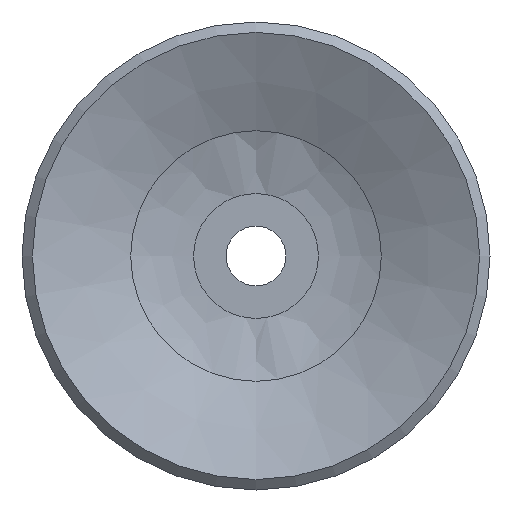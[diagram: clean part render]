
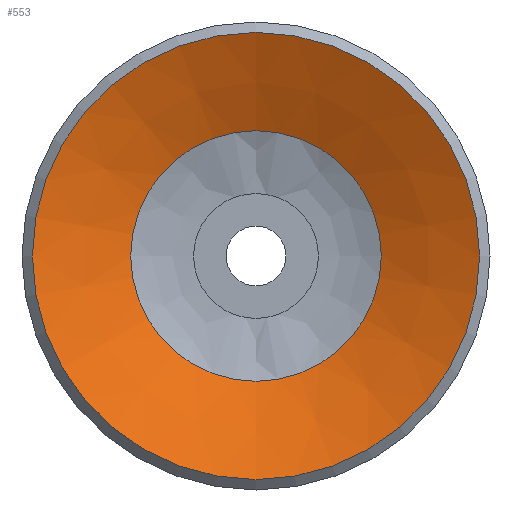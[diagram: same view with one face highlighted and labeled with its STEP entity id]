
A CAD part, front view. The second image highlights one B-rep face of the part: STEP entity #553.
In plain terms, the highlighted conical face has half-angle 65.056 degrees and reference radius 3.2 mm.
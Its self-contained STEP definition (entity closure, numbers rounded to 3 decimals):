
#553=ADVANCED_FACE('',(#817,#818),#819,.F.);
#817=FACE_BOUND('',#1114,.T.);
#818=FACE_OUTER_BOUND('',#1115,.T.);
#819=CONICAL_SURFACE('',#1116,3.2,1.135);
#1114=EDGE_LOOP('',(#1846));
#1115=EDGE_LOOP('',(#1847));
#1116=AXIS2_PLACEMENT_3D('',#1848,#1849,#1850);
#1846=ORIENTED_EDGE('',*,*,#2141,.T.);
#1847=ORIENTED_EDGE('',*,*,#2140,.T.);
#1848=CARTESIAN_POINT('',(0.0,7.896,0.0));
#1849=DIRECTION('',(-0.0,-1.0,0.));
#1850=DIRECTION('',(0.0,0.,-1.0));
#2140=EDGE_CURVE('',#2469,#2469,#2470,.T.);
#2141=EDGE_CURVE('',#2471,#2471,#2472,.T.);
#2469=VERTEX_POINT('',#3169);
#2470=CIRCLE('',#3170,7.5);
#2471=VERTEX_POINT('',#3171);
#2472=CIRCLE('',#3172,4.203);
#3169=CARTESIAN_POINT('',(0.0,5.896,-7.5));
#3170=AXIS2_PLACEMENT_3D('',#3508,#3509,#3510);
#3171=CARTESIAN_POINT('',(0.0,7.43,-4.203));
#3172=AXIS2_PLACEMENT_3D('',#3511,#3512,#3513);
#3508=CARTESIAN_POINT('',(0.0,5.896,0.0));
#3509=DIRECTION('',(0.0,-1.0,0.));
#3510=DIRECTION('',(0.0,0.,-1.0));
#3511=CARTESIAN_POINT('',(0.0,7.43,0.0));
#3512=DIRECTION('',(0.0,1.0,0.));
#3513=DIRECTION('',(0.0,0.,-1.0));
